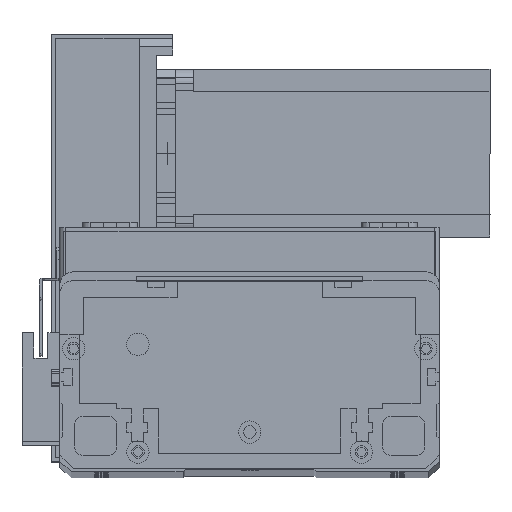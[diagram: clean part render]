
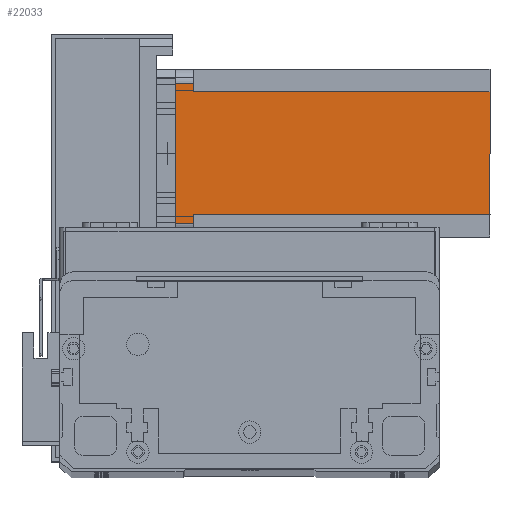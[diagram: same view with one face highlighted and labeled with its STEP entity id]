
A CAD part, top view. The second image highlights one B-rep face of the part: STEP entity #22033.
In plain terms, the highlighted planar face has unit normal (0, 0, 1) as drawn and (0, -1, 0) by its records, which use the part's own axes.
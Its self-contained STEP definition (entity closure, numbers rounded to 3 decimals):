
#472 = EDGE_CURVE ( 'NONE', #9422, #10026, #11651, .T. ) ;
#1064 = EDGE_CURVE ( 'NONE', #25682, #7256, #2552, .T. ) ;
#2164 = CARTESIAN_POINT ( 'NONE',  ( 5., 0., -112.5 ) ) ;
#2339 = ORIENTED_EDGE ( 'NONE', *, *, #4013, .T. ) ;
#2552 = LINE ( 'NONE', #7130, #25352 ) ;
#3248 = CARTESIAN_POINT ( 'NONE',  ( 8., 0., -112.5 ) ) ;
#3365 = DIRECTION ( 'NONE',  ( 0., 0., 1. ) ) ;
#3513 = DIRECTION ( 'NONE',  ( 0., -1., 0. ) ) ;
#3890 = LINE ( 'NONE', #17263, #8583 ) ;
#4013 = EDGE_CURVE ( 'NONE', #25682, #7357, #6360, .T. ) ;
#5582 = VERTEX_POINT ( 'NONE', #12796 ) ;
#5695 = CARTESIAN_POINT ( 'NONE',  ( 5., 0., 0. ) ) ;
#5787 = CARTESIAN_POINT ( 'NONE',  ( 52., 0., -112.5 ) ) ;
#5814 = DIRECTION ( 'NONE',  ( -1., 0., 0. ) ) ;
#6305 = VECTOR ( 'NONE', #16625, 1000. ) ;
#6360 = LINE ( 'NONE', #20822, #23829 ) ;
#6948 = VERTEX_POINT ( 'NONE', #5695 ) ;
#7130 = CARTESIAN_POINT ( 'NONE',  ( 52., 0., -112.5 ) ) ;
#7256 = VERTEX_POINT ( 'NONE', #5787 ) ;
#7335 = CARTESIAN_POINT ( 'NONE',  ( 0., 0., -112.5 ) ) ;
#7357 = VERTEX_POINT ( 'NONE', #21370 ) ;
#8583 = VECTOR ( 'NONE', #5814, 1000. ) ;
#8648 = ORIENTED_EDGE ( 'NONE', *, *, #472, .F. ) ;
#8652 = CARTESIAN_POINT ( 'NONE',  ( 8., 0., -112.5 ) ) ;
#9173 = ORIENTED_EDGE ( 'NONE', *, *, #22941, .T. ) ;
#9422 = VERTEX_POINT ( 'NONE', #8652 ) ;
#9861 = DIRECTION ( 'NONE',  ( 0., 0., -1. ) ) ;
#10026 = VERTEX_POINT ( 'NONE', #19803 ) ;
#10158 = EDGE_LOOP ( 'NONE', ( #2339, #9173, #28410, #14849, #27116, #8648, #20893, #20942 ) ) ;
#10424 = LINE ( 'NONE', #7335, #21772 ) ;
#11651 = LINE ( 'NONE', #3248, #17003 ) ;
#12796 = CARTESIAN_POINT ( 'NONE',  ( 5., 0., -6.5 ) ) ;
#13396 = VECTOR ( 'NONE', #13773, 1000. ) ;
#13773 = DIRECTION ( 'NONE',  ( 0., 0., -1. ) ) ;
#14324 = CARTESIAN_POINT ( 'NONE',  ( 55., 0., -112.5 ) ) ;
#14849 = ORIENTED_EDGE ( 'NONE', *, *, #18395, .T. ) ;
#14996 = CARTESIAN_POINT ( 'NONE',  ( 52., 0., -6.5 ) ) ;
#16625 = DIRECTION ( 'NONE',  ( 0., 0., 1. ) ) ;
#17003 = VECTOR ( 'NONE', #3365, 1000. ) ;
#17176 = CARTESIAN_POINT ( 'NONE',  ( 0., 0., -112.5 ) ) ;
#17263 = CARTESIAN_POINT ( 'NONE',  ( 8., 0., -6.5 ) ) ;
#17269 = PLANE ( 'NONE',  #21011 ) ;
#17709 = EDGE_CURVE ( 'NONE', #6948, #21068, #25003, .T. ) ;
#18073 = DIRECTION ( 'NONE',  ( 1., 0., 0. ) ) ;
#18138 = FACE_OUTER_BOUND ( 'NONE', #10158, .T. ) ;
#18395 = EDGE_CURVE ( 'NONE', #6948, #5582, #20133, .T. ) ;
#18728 = DIRECTION ( 'NONE',  ( 1., 0., 0. ) ) ;
#19076 = VECTOR ( 'NONE', #18073, 1000. ) ;
#19547 = DIRECTION ( 'NONE',  ( 0., 0., -1. ) ) ;
#19803 = CARTESIAN_POINT ( 'NONE',  ( 8., 0., -6.5 ) ) ;
#20133 = LINE ( 'NONE', #2164, #13396 ) ;
#20822 = CARTESIAN_POINT ( 'NONE',  ( 52., 0., -6.5 ) ) ;
#20893 = ORIENTED_EDGE ( 'NONE', *, *, #25507, .T. ) ;
#20942 = ORIENTED_EDGE ( 'NONE', *, *, #1064, .F. ) ;
#21011 = AXIS2_PLACEMENT_3D ( 'NONE', #17176, #3513, #19547 ) ;
#21068 = VERTEX_POINT ( 'NONE', #27142 ) ;
#21370 = CARTESIAN_POINT ( 'NONE',  ( 55., 0., -6.5 ) ) ;
#21772 = VECTOR ( 'NONE', #18728, 1000. ) ;
#22033 = ADVANCED_FACE ( 'NONE', ( #18138 ), #17269, .T. ) ;
#22314 = DIRECTION ( 'NONE',  ( 1., 0., 0. ) ) ;
#22941 = EDGE_CURVE ( 'NONE', #7357, #21068, #24451, .T. ) ;
#23829 = VECTOR ( 'NONE', #22314, 1000. ) ;
#24451 = LINE ( 'NONE', #14324, #6305 ) ;
#24728 = CARTESIAN_POINT ( 'NONE',  ( 0., 0., 0. ) ) ;
#25003 = LINE ( 'NONE', #24728, #19076 ) ;
#25352 = VECTOR ( 'NONE', #9861, 1000. ) ;
#25507 = EDGE_CURVE ( 'NONE', #9422, #7256, #10424, .T. ) ;
#25682 = VERTEX_POINT ( 'NONE', #14996 ) ;
#26440 = EDGE_CURVE ( 'NONE', #10026, #5582, #3890, .T. ) ;
#27116 = ORIENTED_EDGE ( 'NONE', *, *, #26440, .F. ) ;
#27142 = CARTESIAN_POINT ( 'NONE',  ( 55., 0., 0. ) ) ;
#28410 = ORIENTED_EDGE ( 'NONE', *, *, #17709, .F. ) ;
